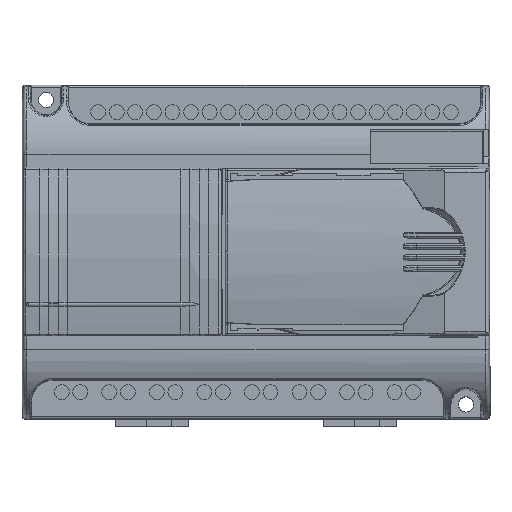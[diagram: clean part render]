
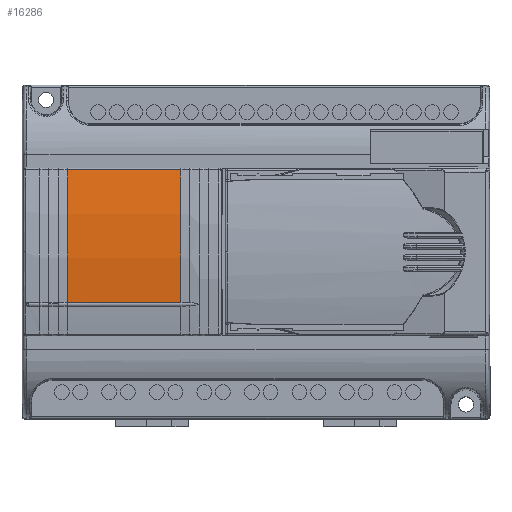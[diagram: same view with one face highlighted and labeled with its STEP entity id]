
A CAD part, top view. The second image highlights one B-rep face of the part: STEP entity #16286.
In plain terms, the highlighted cylindrical face has radius 124.7 mm (diameter 249.4 mm), a partial arc.
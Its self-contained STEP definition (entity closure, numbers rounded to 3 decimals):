
#2360 = FACE_OUTER_BOUND ( 'NONE', #9044, .T. ) ;
#6279 = DIRECTION ( 'NONE',  ( 0., 1., 0. ) ) ;
#6396 = LINE ( 'NONE', #31788, #24750 ) ;
#7995 = CARTESIAN_POINT ( 'NONE',  ( 12.199, 33.464, 56.263 ) ) ;
#8007 = DIRECTION ( 'NONE',  ( -1., 0., 0. ) ) ;
#8558 = CARTESIAN_POINT ( 'NONE',  ( 6., 69.106, 55.025 ) ) ;
#9044 = EDGE_LOOP ( 'NONE', ( #33683, #33764, #12595, #25959 ) ) ;
#12595 = ORIENTED_EDGE ( 'NONE', *, *, #35122, .T. ) ;
#14927 = DIRECTION ( 'NONE',  ( 1., 0., 0. ) ) ;
#16286 = ADVANCED_FACE ( 'NONE', ( #2360 ), #36136, .T. ) ;
#17137 = AXIS2_PLACEMENT_3D ( 'NONE', #53152, #14927, #6279 ) ;
#18609 = EDGE_CURVE ( 'NONE', #26307, #43847, #51250, .T. ) ;
#22795 = DIRECTION ( 'NONE',  ( 1., 0., 0. ) ) ;
#22968 = VERTEX_POINT ( 'NONE', #7995 ) ;
#23888 = CARTESIAN_POINT ( 'NONE',  ( 42.801, 33.464, 56.263 ) ) ;
#24750 = VECTOR ( 'NONE', #52449, 1000. ) ;
#25440 = CARTESIAN_POINT ( 'NONE',  ( 42.801, 47., -67.7 ) ) ;
#25959 = ORIENTED_EDGE ( 'NONE', *, *, #18609, .T. ) ;
#26307 = VERTEX_POINT ( 'NONE', #47836 ) ;
#27520 = DIRECTION ( 'NONE',  ( 0., 1., 0. ) ) ;
#28299 = VERTEX_POINT ( 'NONE', #23888 ) ;
#28964 = EDGE_CURVE ( 'NONE', #22968, #28299, #6396, .T. ) ;
#31788 = CARTESIAN_POINT ( 'NONE',  ( 27.5, 33.464, 56.263 ) ) ;
#33559 = DIRECTION ( 'NONE',  ( -1., 0., 0. ) ) ;
#33683 = ORIENTED_EDGE ( 'NONE', *, *, #49259, .T. ) ;
#33764 = ORIENTED_EDGE ( 'NONE', *, *, #28964, .T. ) ;
#34832 = VECTOR ( 'NONE', #8007, 1000. ) ;
#35122 = EDGE_CURVE ( 'NONE', #28299, #26307, #40186, .T. ) ;
#36136 = CYLINDRICAL_SURFACE ( 'NONE', #17137, 124.7 ) ;
#38800 = CIRCLE ( 'NONE', #48585, 124.7 ) ;
#40186 = CIRCLE ( 'NONE', #42833, 124.7 ) ;
#42469 = DIRECTION ( 'NONE',  ( 0., -1., 0. ) ) ;
#42833 = AXIS2_PLACEMENT_3D ( 'NONE', #25440, #33559, #42469 ) ;
#43847 = VERTEX_POINT ( 'NONE', #44351 ) ;
#44351 = CARTESIAN_POINT ( 'NONE',  ( 12.199, 69.106, 55.025 ) ) ;
#47836 = CARTESIAN_POINT ( 'NONE',  ( 42.801, 69.106, 55.025 ) ) ;
#48585 = AXIS2_PLACEMENT_3D ( 'NONE', #53751, #22795, #27520 ) ;
#49259 = EDGE_CURVE ( 'NONE', #43847, #22968, #38800, .T. ) ;
#51250 = LINE ( 'NONE', #8558, #34832 ) ;
#52449 = DIRECTION ( 'NONE',  ( 1., 0., 0. ) ) ;
#53152 = CARTESIAN_POINT ( 'NONE',  ( 6., 47., -67.7 ) ) ;
#53751 = CARTESIAN_POINT ( 'NONE',  ( 12.199, 47., -67.7 ) ) ;
